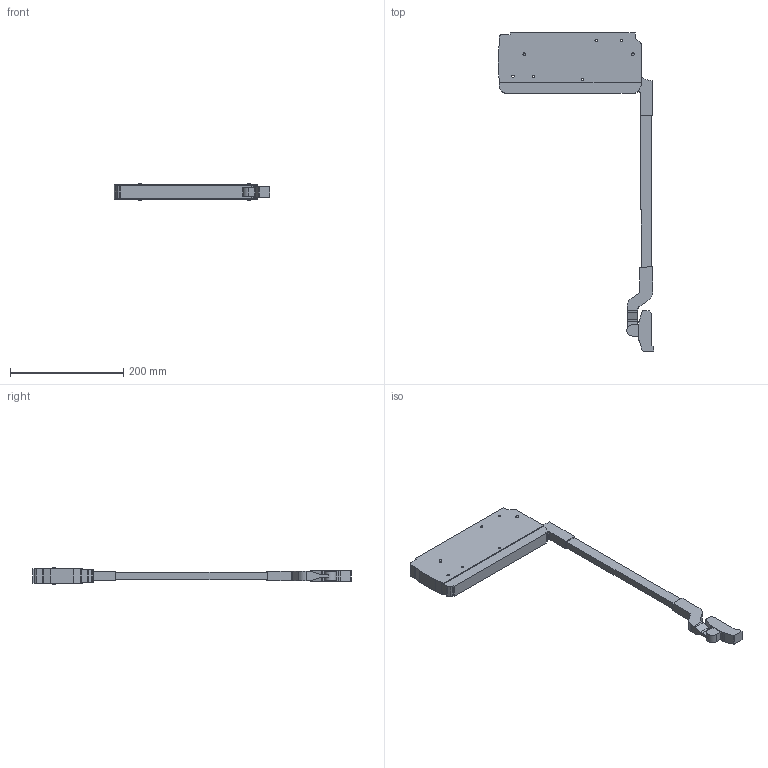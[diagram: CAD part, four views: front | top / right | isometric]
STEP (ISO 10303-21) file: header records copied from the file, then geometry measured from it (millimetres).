
FILE_DESCRIPTION (( 'STEP AP214' ), '1' );
FILE_NAME ('ST07AM(H).STEP', '2021-04-10T07:51:30', ( 'Windows 蚚誧' ), ( '' ), 'SwSTEP 2.0', 'SolidWorks 2018', '' );
FILE_SCHEMA (( 'AUTOMOTIVE_DESIGN' ));
Length unit declared in the file: millimetre
Products named in the file (1): ST07AM(H)
Bounding box: 275.2 x 562.78 x 28.6 mm (x, y, z)
Volume: 804657.4 mm3; surface area: 109456.2 mm2
Topology: 1 solids, 1 shells, 126 faces, 351 edges, 234 vertices
Faces by surface type: plane 68, cylinder 58
Entity records: 4633 total; most frequent: DIRECTION 723, CARTESIAN_POINT 712, ORIENTED_EDGE 702, EDGE_CURVE 351, AXIS2_PLACEMENT_3D 245, VERTEX_POINT 234, VECTOR 233, LINE 233
